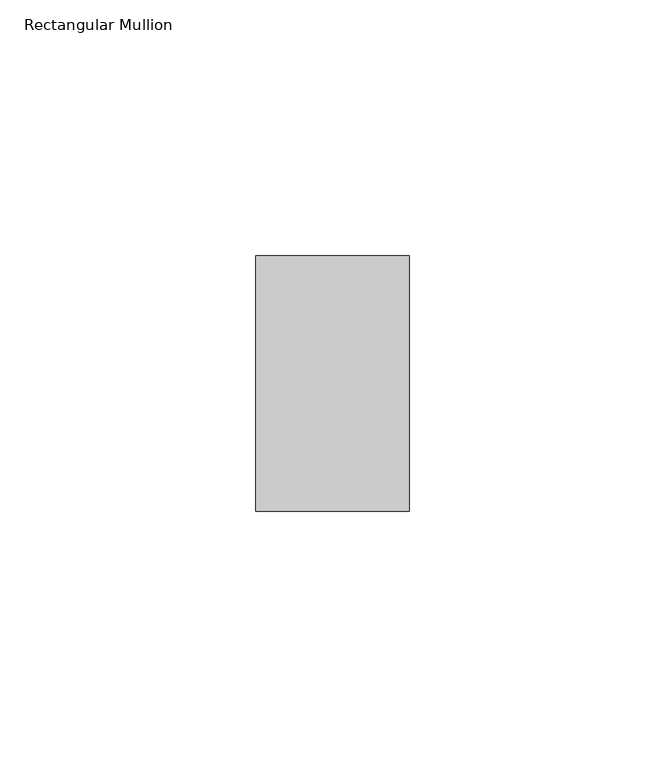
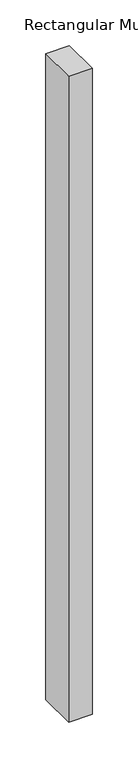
"""IFC4 building model written with IfcOpenShell, lengths in millimetres: member geometry, Rectangular Mullion : ARQ_TV_MULL_50x30mm."""

from ifc_helpers import new_model, si_unit, frame, origin, place, context, project, spatial, polyline, outline, extrude, source, transform, mapped, element, save


def rectangular_mullion_e335d830(model_context):
    return source(origin(), model_context, "Body", "SweptSolid", [
        extrude(outline(polyline([(0.0, 25.0), (0.0, -25.0), (-30.0, -25.0), (-30.0, 25.0), (0.0, 25.0)])), frame((0.0, 0.0, -863.3333334), z_axis=(0.0, 0.0, 1.0), x_axis=(1.0, 0.0, 0.0)), (0.0, 0.0, 1.0), 863.3333334),
    ])


if __name__ == "__main__":
    model = new_model("IFC4")
    model_context = context("Model", 3, world=origin())
    ifc_project = project(units=[si_unit("LENGTHUNIT", "METRE", prefix="MILLI")], contexts=[model_context])
    site = spatial("IfcSite", under=ifc_project)
    building = spatial("IfcBuilding", under=site)
    placement = place(None, origin())
    rectangular_mullion_shape = rectangular_mullion_e335d830(model_context)
    element("IfcMember", 1, ObjectType="Rectangular Mullion : ARQ_TV_MULL_50x30mm", at=placement, inside=building, context=model_context, shape_type="MappedRepresentation", body=[
        mapped(rectangular_mullion_shape, transform((0.0, 0.0, 0.0), x_axis=(1.0, 0.0, 0.0), y_axis=(0.0, 1.0, 0.0), z_axis=(0.0, 0.0, 1.0))),
    ])
    save(model, "model.ifc")
